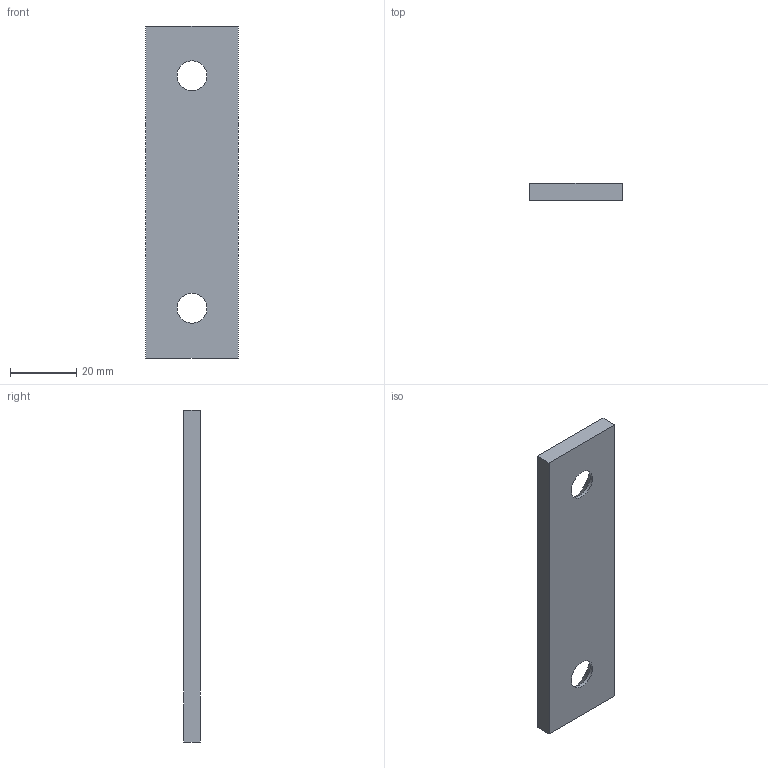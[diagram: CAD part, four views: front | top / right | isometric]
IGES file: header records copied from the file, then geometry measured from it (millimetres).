
Start section: Data from Parasolid IGES Translator 20.0.26, Copyright(c) 2006 Siemens P LM Software. All Rights Reserved.
Global section: file name: P605-01-028-100.igs; native system: By Siemens PLM Incorporated; preprocessor: XPlus GENERIC/IGES 20.0.26; author: Noname; organization: Noname; date: 20190705.145618; units: millimetre
Bounding box: 28 x 5 x 100 mm (x, y, z)
Surface area: 6817.4 mm2 (no closed solid volume)
Topology: 0 solids, 0 shells, 10 faces, 44 edges, 41 vertices
Faces by surface type: extrusion 6, revolution 4
